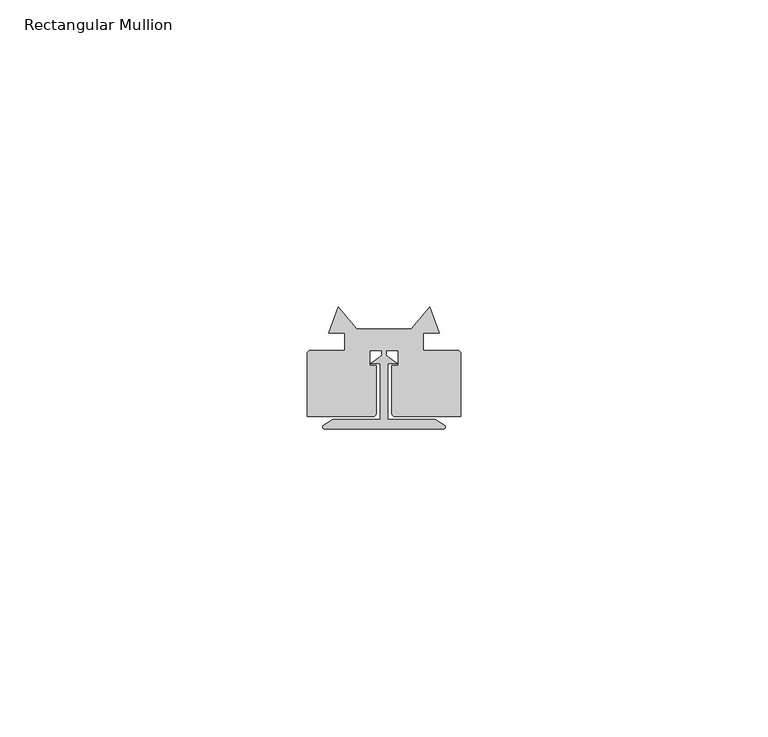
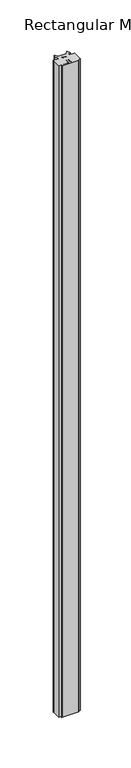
"""IFC4 building model written with IfcOpenShell, lengths in millimetres: member geometry, Rectangular Mullion : QO-V-01_01 Joint."""

from ifc_helpers import new_model, si_unit, point, frame, frame_2d, origin, place, context, project, spatial, polyline, circle_curve, trimmed, segment, composite_curve, outline, extrude, source, transform, mapped, element, save


def rectangular_mullion_efdcbe33(model_context):
    return source(origin(), model_context, "Body", "SweptSolid", [
        extrude(outline(composite_curve([segment(polyline([(0.6475876, 34.6160805), (0.6475876, 25.5027713), (8.3158634, 25.5027713), (9.8478388, 24.5783623)]), True, "CONTINUOUS"), segment(trimmed(circle_curve(frame_2d((9.6876801, 24.3129396)), 0.31), [point((9.8478388, 24.5783623))], [point((9.6876801, 24.0029396))], False, "CARTESIAN"), True, "CONTINUOUS"), segment(polyline([(9.6876801, 24.0029396), (-9.6923428, 24.0029396)]), True, "CONTINUOUS"), segment(trimmed(circle_curve(frame_2d((-9.6923428, 24.3129396)), 0.31), [point((-9.6923428, 24.0029396))], [point((-9.8525015, 24.5783623))], False, "CARTESIAN"), True, "CONTINUOUS"), segment(polyline([(-9.8525015, 24.5783623), (-8.3205261, 25.5027713), (-0.6524124, 25.5027713), (-0.6524124, 34.6160805), (-2.1674381, 34.6160805), (-0.3546092, 35.9759407), (-0.3546092, 36.7759407), (-2.3561345, 36.7759407), (-2.3561345, 34.317153), (-1.2879019, 34.317153), (-1.2879019, 26.5392087)]), True, "CONTINUOUS"), segment(trimmed(circle_curve(frame_2d((-1.7872786, 26.5150144)), 0.4999625), [point((-1.2879019, 26.5392087))], [point((-1.7872786, 26.0150519))], False, "CARTESIAN"), True, "CONTINUOUS"), segment(polyline([(-1.7872786, 26.0150519), (-12.5010847, 26.0150519), (-12.5010847, 36.190378)]), True, "CONTINUOUS"), segment(trimmed(circle_curve(frame_2d((-11.9010847, 36.190378)), 0.6), [point((-12.5010847, 36.190378))], [point((-11.9010847, 36.790378))], False, "CARTESIAN"), True, "CONTINUOUS"), segment(polyline([(-11.9010847, 36.790378), (-6.362561, 36.790378), (-6.362561, 39.6058207), (-8.961162, 39.6058207), (-7.4224126, 43.8493822), (-4.3991903, 40.3004498), (4.3943655, 40.3004498), (7.4175879, 43.8493822), (8.9563372, 39.6058207), (6.3577362, 39.6058207), (6.3577362, 36.790378), (11.8962599, 36.790378)]), True, "CONTINUOUS"), segment(trimmed(circle_curve(frame_2d((11.8962599, 36.190378)), 0.6), [point((11.8962599, 36.790378))], [point((12.4962599, 36.190378))], False, "CARTESIAN"), True, "CONTINUOUS"), segment(polyline([(12.4962599, 36.190378), (12.4962599, 26.0150519), (1.7824538, 26.0150519)]), True, "CONTINUOUS"), segment(trimmed(circle_curve(frame_2d((1.7824538, 26.5150144)), 0.4999625), [point((1.7824538, 26.0150519))], [point((1.2830771, 26.5392087))], False, "CARTESIAN"), True, "CONTINUOUS"), segment(polyline([(1.2830771, 26.5392087), (1.2830771, 34.317153), (2.3513097, 34.317153), (2.3513097, 36.7759407), (0.3497844, 36.7759407), (0.3497844, 35.9759407), (2.1626133, 34.6160805), (0.6475876, 34.6160805)]), True, "CONTINUOUS")], self_intersect=False)), frame((0.0, 0.0, -800.0), z_axis=(0.0, 0.0, 1.0), x_axis=(1.0, 0.0, 0.0)), (0.0, 0.0, 1.0), 800.0),
    ])


if __name__ == "__main__":
    model = new_model("IFC4")
    model_context = context("Model", 3, world=origin())
    ifc_project = project(units=[si_unit("LENGTHUNIT", "METRE", prefix="MILLI")], contexts=[model_context])
    site = spatial("IfcSite", under=ifc_project)
    building = spatial("IfcBuilding", under=site)
    placement = place(None, origin())
    rectangular_mullion_shape = rectangular_mullion_efdcbe33(model_context)
    element("IfcMember", 1, ObjectType="Rectangular Mullion : QO-V-01_01 Joint", at=placement, inside=building, context=model_context, shape_type="MappedRepresentation", body=[
        mapped(rectangular_mullion_shape, transform((0.0, 0.0, 0.0), x_axis=(1.0, 0.0, 0.0), y_axis=(0.0, 1.0, 0.0), z_axis=(0.0, 0.0, 1.0))),
    ])
    save(model, "model.ifc")
